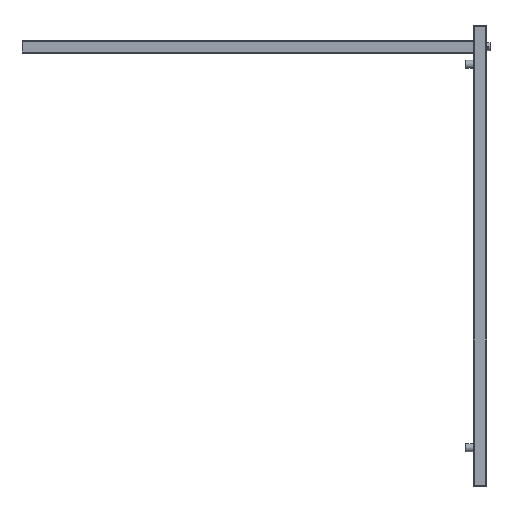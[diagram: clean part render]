
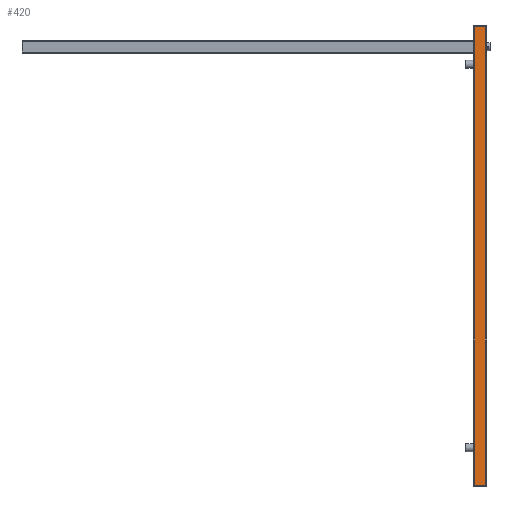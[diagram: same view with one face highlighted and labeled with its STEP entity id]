
A CAD part, left-side view. The second image highlights one B-rep face of the part: STEP entity #420.
In plain terms, the highlighted planar face has unit normal (-1, 0, 0) as drawn and (0, 0, -1) by its records, which use the part's own axes.
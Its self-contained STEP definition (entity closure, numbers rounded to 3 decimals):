
#420 = ADVANCED_FACE( '', ( #984 ), #985, .T. );
#984 = FACE_OUTER_BOUND( '', #1722, .T. );
#985 = PLANE( '', #1723 );
#1722 = EDGE_LOOP( '', ( #2989, #2990, #2991, #2992 ) );
#1723 = AXIS2_PLACEMENT_3D( '', #2993, #2994, #2995 );
#2989 = ORIENTED_EDGE( '', *, *, #4634, .F. );
#2990 = ORIENTED_EDGE( '', *, *, #4635, .T. );
#2991 = ORIENTED_EDGE( '', *, *, #4308, .T. );
#2992 = ORIENTED_EDGE( '', *, *, #4636, .T. );
#2993 = CARTESIAN_POINT( '', ( -15., 1056., -15. ) );
#2994 = DIRECTION( '', ( 0., 0., -1. ) );
#2995 = DIRECTION( '', ( -1., 0., 0. ) );
#4308 = EDGE_CURVE( '', #5186, #5184, #5187, .T. );
#4634 = EDGE_CURVE( '', #5722, #5723, #5724, .T. );
#4635 = EDGE_CURVE( '', #5722, #5186, #5725, .F. );
#4636 = EDGE_CURVE( '', #5184, #5723, #5726, .T. );
#5184 = VERTEX_POINT( '', #6420 );
#5186 = VERTEX_POINT( '', #6422 );
#5187 = LINE( '', #6423, #6424 );
#5722 = VERTEX_POINT( '', #7134 );
#5723 = VERTEX_POINT( '', #7135 );
#5724 = LINE( '', #7136, #7137 );
#5725 = LINE( '', #7138, #7139 );
#5726 = LINE( '', #7140, #7141 );
#6420 = CARTESIAN_POINT( '', ( 12., 1056., -15. ) );
#6422 = CARTESIAN_POINT( '', ( -12., 1056., -15. ) );
#6423 = CARTESIAN_POINT( '', ( -15., 1056., -15. ) );
#6424 = VECTOR( '', #7832, 1000. );
#7134 = CARTESIAN_POINT( '', ( -12., 0., -15. ) );
#7135 = CARTESIAN_POINT( '', ( 12., 0., -15. ) );
#7136 = CARTESIAN_POINT( '', ( -15., 0., -15. ) );
#7137 = VECTOR( '', #8299, 1000. );
#7138 = CARTESIAN_POINT( '', ( -12., 1056., -15. ) );
#7139 = VECTOR( '', #8300, 1000. );
#7140 = CARTESIAN_POINT( '', ( 12., 1056., -15. ) );
#7141 = VECTOR( '', #8301, 1000. );
#7832 = DIRECTION( '', ( 1., 0., 0. ) );
#8299 = DIRECTION( '', ( 1., 0., 0. ) );
#8300 = DIRECTION( '', ( 0., -1., 0. ) );
#8301 = DIRECTION( '', ( 0., -1., 0. ) );
